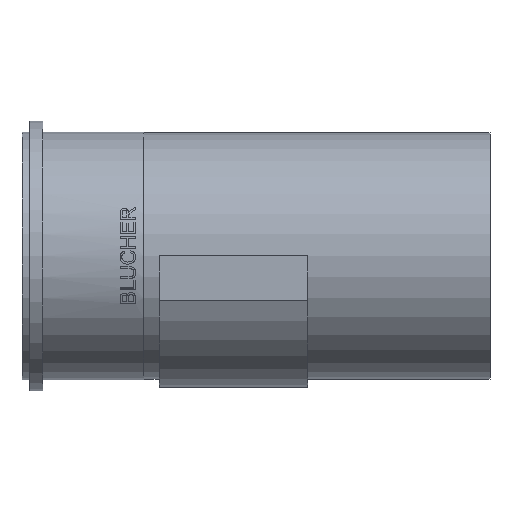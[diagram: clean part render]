
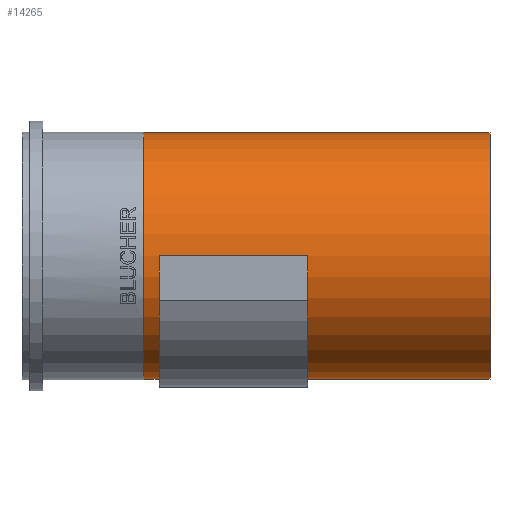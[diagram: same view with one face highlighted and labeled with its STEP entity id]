
A CAD part, top view. The second image highlights one B-rep face of the part: STEP entity #14265.
In plain terms, the highlighted cylindrical face has radius 99.949 mm (diameter 199.898 mm), a full revolution.
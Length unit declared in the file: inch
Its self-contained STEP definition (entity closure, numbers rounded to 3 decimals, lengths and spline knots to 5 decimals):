
#13993=CARTESIAN_POINT('',(-2.375,0.0,-3.935));
#13994=VERTEX_POINT('',#13993);
#14010=CARTESIAN_POINT('',(-2.375,0.0,3.935));
#14011=VERTEX_POINT('',#14010);
#14018=CARTESIAN_POINT('',(-2.375,0.0,0.0));
#14019=DIRECTION('',(-1.0,0.0,0.0));
#14020=DIRECTION('',(0.0,1.0,0.0));
#14021=AXIS2_PLACEMENT_3D('',#14018,#14019,#14020);
#14022=CIRCLE('',#14021,3.935);
#14023=EDGE_CURVE('',#13994,#14011,#14022,.T.);
#14035=CARTESIAN_POINT('',(2.375,0.0,3.935));
#14036=VERTEX_POINT('',#14035);
#14043=CARTESIAN_POINT('',(-2.375,0.0,3.935));
#14044=DIRECTION('',(1.0,0.0,0.0));
#14045=VECTOR('',#14044,4.75);
#14046=LINE('',#14043,#14045);
#14047=EDGE_CURVE('',#14011,#14036,#14046,.T.);
#14064=CARTESIAN_POINT('',(2.375,0.0,-3.935));
#14065=VERTEX_POINT('',#14064);
#14081=CARTESIAN_POINT('',(-2.375,0.0,-3.935));
#14082=DIRECTION('',(1.0,0.0,0.0));
#14083=VECTOR('',#14082,4.75);
#14084=LINE('',#14081,#14083);
#14085=EDGE_CURVE('',#13994,#14065,#14084,.T.);
#14116=CARTESIAN_POINT('',(2.375,0.0,0.0));
#14117=DIRECTION('',(1.0,0.0,0.0));
#14118=DIRECTION('',(0.0,1.0,0.0));
#14119=AXIS2_PLACEMENT_3D('',#14116,#14117,#14118);
#14120=CIRCLE('',#14119,3.935);
#14121=EDGE_CURVE('',#14036,#14065,#14120,.T.);
#14228=CARTESIAN_POINT('',(-2.875,3.935,0.0));
#14229=VERTEX_POINT('',#14228);
#14230=CARTESIAN_POINT('',(-2.875,0.0,0.0));
#14231=DIRECTION('',(1.0,0.0,0.0));
#14232=DIRECTION('',(0.0,1.0,0.0));
#14233=AXIS2_PLACEMENT_3D('',#14230,#14231,#14232);
#14234=CIRCLE('',#14233,3.935);
#14235=EDGE_CURVE('',#14229,#14229,#14234,.T.);
#14240=CARTESIAN_POINT('',(2.65625,0.0,0.0));
#14241=DIRECTION('',(1.0,0.0,0.0));
#14242=DIRECTION('',(0.0,1.0,0.0));
#14243=AXIS2_PLACEMENT_3D('',#14240,#14241,#14242);
#14244=CYLINDRICAL_SURFACE('',#14243,3.935);
#14245=CARTESIAN_POINT('',(8.1875,3.935,0.0));
#14246=VERTEX_POINT('',#14245);
#14247=CARTESIAN_POINT('',(8.1875,0.0,0.0));
#14248=DIRECTION('',(1.0,0.0,0.0));
#14249=DIRECTION('',(0.0,1.0,0.0));
#14250=AXIS2_PLACEMENT_3D('',#14247,#14248,#14249);
#14251=CIRCLE('',#14250,3.935);
#14252=EDGE_CURVE('',#14246,#14246,#14251,.T.);
#14253=ORIENTED_EDGE('',*,*,#14252,.F.);
#14254=EDGE_LOOP('',(#14253));
#14255=FACE_OUTER_BOUND('',#14254,.T.);
#14256=ORIENTED_EDGE('',*,*,#14023,.T.);
#14257=ORIENTED_EDGE('',*,*,#14047,.T.);
#14258=ORIENTED_EDGE('',*,*,#14121,.T.);
#14259=ORIENTED_EDGE('',*,*,#14085,.F.);
#14260=EDGE_LOOP('',(#14256,#14257,#14258,#14259));
#14261=FACE_BOUND('',#14260,.T.);
#14262=ORIENTED_EDGE('',*,*,#14235,.T.);
#14263=EDGE_LOOP('',(#14262));
#14264=FACE_BOUND('',#14263,.T.);
#14265=ADVANCED_FACE('',(#14255,#14261,#14264),#14244,.T.);
